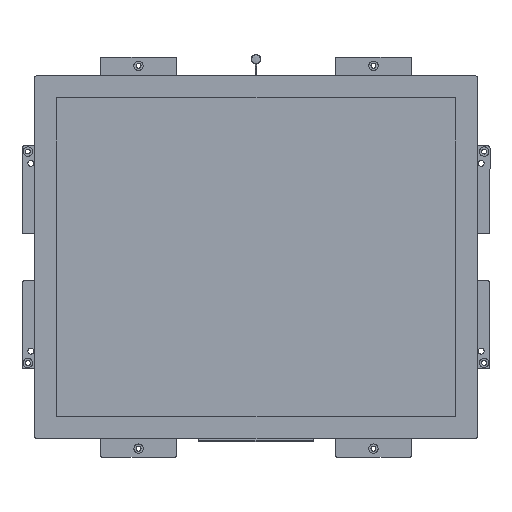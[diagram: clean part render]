
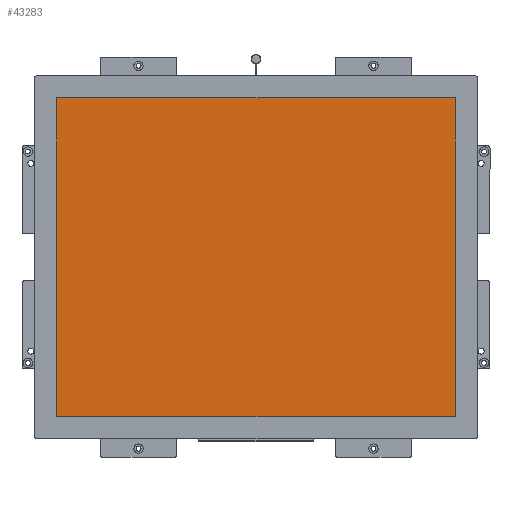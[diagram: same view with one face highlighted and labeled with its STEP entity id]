
A CAD part, top view. The second image highlights one B-rep face of the part: STEP entity #43283.
In plain terms, the highlighted planar face has unit normal (0, 0, 1).
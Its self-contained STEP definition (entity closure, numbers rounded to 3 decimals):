
#3952 = DIRECTION ( 'NONE',  ( 0., 1., 0. ) ) ;
#6226 = DIRECTION ( 'NONE',  ( -1., 0., 0. ) ) ;
#14841 = CARTESIAN_POINT ( 'NONE',  ( 169.46, -0.748, 18.2 ) ) ;
#15244 = VECTOR ( 'NONE', #3952, 1000. ) ;
#18447 = LINE ( 'NONE', #85065, #83734 ) ;
#21882 = VERTEX_POINT ( 'NONE', #77772 ) ;
#29462 = VECTOR ( 'NONE', #102034, 1000. ) ;
#34131 = CARTESIAN_POINT ( 'NONE',  ( 169.46, 134.922, 18.2 ) ) ;
#34237 = VERTEX_POINT ( 'NONE', #61591 ) ;
#38904 = ORIENTED_EDGE ( 'NONE', *, *, #109048, .T. ) ;
#42353 = VERTEX_POINT ( 'NONE', #34131 ) ;
#43283 = ADVANCED_FACE ( 'NONE', ( #122490 ), #77533, .F. ) ;
#47435 = LINE ( 'NONE', #14841, #15244 ) ;
#56464 = CARTESIAN_POINT ( 'NONE',  ( 169.46, -136.418, 18.2 ) ) ;
#58682 = DIRECTION ( 'NONE',  ( 0., 0., -1. ) ) ;
#61591 = CARTESIAN_POINT ( 'NONE',  ( -169.46, -136.418, 18.2 ) ) ;
#63370 = EDGE_CURVE ( 'NONE', #34237, #79319, #99887, .T. ) ;
#63427 = LINE ( 'NONE', #74290, #71332 ) ;
#67774 = EDGE_LOOP ( 'NONE', ( #96093, #73259, #38904, #115552 ) ) ;
#71306 = EDGE_CURVE ( 'NONE', #21882, #34237, #18447, .T. ) ;
#71332 = VECTOR ( 'NONE', #6226, 1000. ) ;
#73259 = ORIENTED_EDGE ( 'NONE', *, *, #135090, .T. ) ;
#74290 = CARTESIAN_POINT ( 'NONE',  ( 0., 134.922, 18.2 ) ) ;
#77533 = PLANE ( 'NONE',  #92799 ) ;
#77772 = CARTESIAN_POINT ( 'NONE',  ( -169.46, 134.922, 18.2 ) ) ;
#79319 = VERTEX_POINT ( 'NONE', #56464 ) ;
#80246 = CARTESIAN_POINT ( 'NONE',  ( 0., -136.418, 18.2 ) ) ;
#83634 = DIRECTION ( 'NONE',  ( 0., -1., 0. ) ) ;
#83734 = VECTOR ( 'NONE', #83634, 1000. ) ;
#85065 = CARTESIAN_POINT ( 'NONE',  ( -169.46, -0.748, 18.2 ) ) ;
#92799 = AXIS2_PLACEMENT_3D ( 'NONE', #113770, #58682, #102883 ) ;
#96093 = ORIENTED_EDGE ( 'NONE', *, *, #63370, .T. ) ;
#99887 = LINE ( 'NONE', #80246, #29462 ) ;
#102034 = DIRECTION ( 'NONE',  ( 1., 0., 0. ) ) ;
#102883 = DIRECTION ( 'NONE',  ( 0., -1., 0. ) ) ;
#109048 = EDGE_CURVE ( 'NONE', #42353, #21882, #63427, .T. ) ;
#113770 = CARTESIAN_POINT ( 'NONE',  ( 0., -0.748, 18.2 ) ) ;
#115552 = ORIENTED_EDGE ( 'NONE', *, *, #71306, .T. ) ;
#122490 = FACE_OUTER_BOUND ( 'NONE', #67774, .T. ) ;
#135090 = EDGE_CURVE ( 'NONE', #79319, #42353, #47435, .T. ) ;
